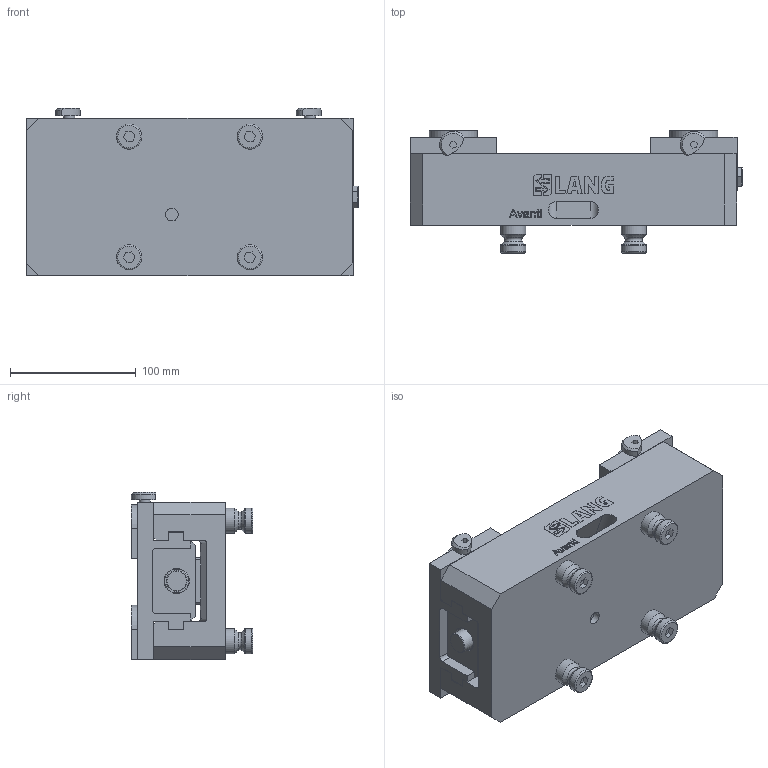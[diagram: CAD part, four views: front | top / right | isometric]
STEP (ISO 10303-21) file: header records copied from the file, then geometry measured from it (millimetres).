
FILE_DESCRIPTION (( 'STEP AP214' ), '1' );
FILE_NAME ('44255-125.STEP', '2020-02-13T14:23:58', ( '' ), ( '' ), 'SwSTEP 2.0', 'SolidWorks 2019', '' );
FILE_SCHEMA (( 'AUTOMOTIVE_DESIGN' ));
Length unit declared in the file: millimetre
Products named in the file (3): 44251-125; Avanti_44255-125; 44255-125
Assembly tree (3 placements, depth 2):
  44255-125
    Avanti_44255-125
    44251-125  x2
Bounding box: 264.03 x 97.01 x 133.12 mm (x, y, z)
Volume: 1688224.6 mm3; surface area: 252701.6 mm2
Topology: 38 solids, 38 shells, 768 faces, 1935 edges, 1270 vertices
Faces by surface type: plane 565, bspline 98, cylinder 64, cone 29, torus 12
Full cylindrical faces by diameter (mm): 8.5 x8, 9 x2, 10 x1, 16 x8, 16.5 x1, 20 x12
Entity records: 30899 total; most frequent: CARTESIAN_POINT 6851, ORIENTED_EDGE 3360, DIRECTION 2798, EDGE_CURVE 1680, VECTOR 1342, LINE 1342, VERTEX_POINT 1141, EDGE_LOOP 813
